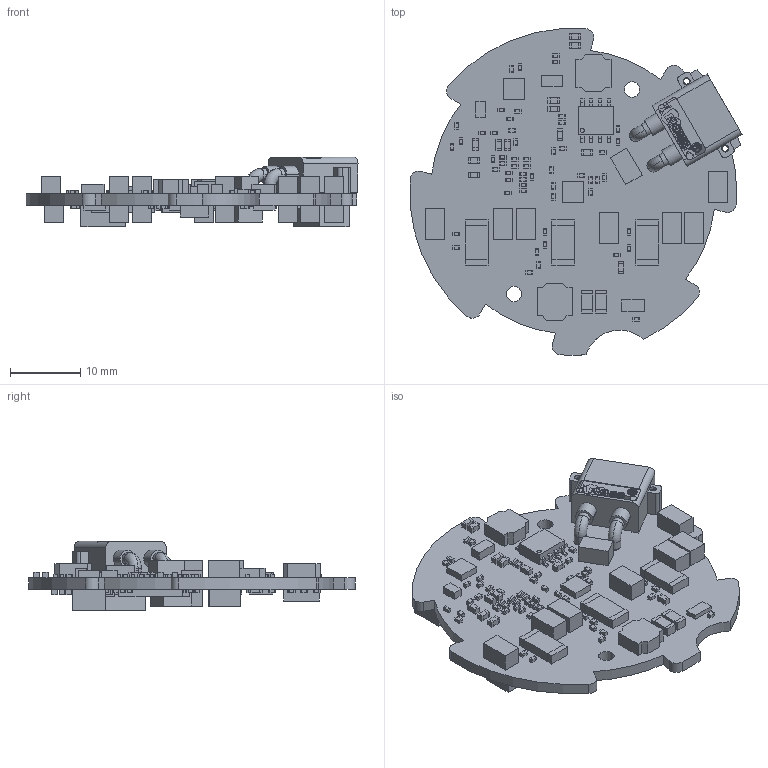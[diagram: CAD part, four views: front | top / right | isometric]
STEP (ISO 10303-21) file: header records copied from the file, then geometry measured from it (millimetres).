
FILE_DESCRIPTION(('Open CASCADE Model'),'2;1');
FILE_NAME('Open CASCADE Shape Model','2025-01-15T00:53:18',('Author'),( 'Open CASCADE'),'Open CASCADE STEP processor 7.5','Open CASCADE 7.5' ,'Unknown');
FILE_SCHEMA(('AUTOMOTIVE_DESIGN { 1 0 10303 214 1 1 1 1 }'));
Products named in the file (1): PCB
Bounding box: 47.12 x 46.34 x 9.93 mm (x, y, z)
Volume: 3691.6 mm3; surface area: 7464.5 mm2
Topology: 517 solids, 518 shells, 3591 faces, 7674 edges, 5048 vertices
Faces by surface type: plane 3378, cylinder 152, bspline 35, cone 22, torus 4
Full cylindrical faces by diameter (mm): 0.6 x1, 1 x1, 1.1 x2, 1.8 x2, 2.194 x1, 2.2 x1
Entity records: 98632 total; most frequent: CARTESIAN_POINT 18803, ORIENTED_EDGE 14970, DIRECTION 14835, EDGE_CURVE 7485, LINE 7051, VECTOR 7051, VERTEX_POINT 4978, AXIS2_PLACEMENT_3D 3892
